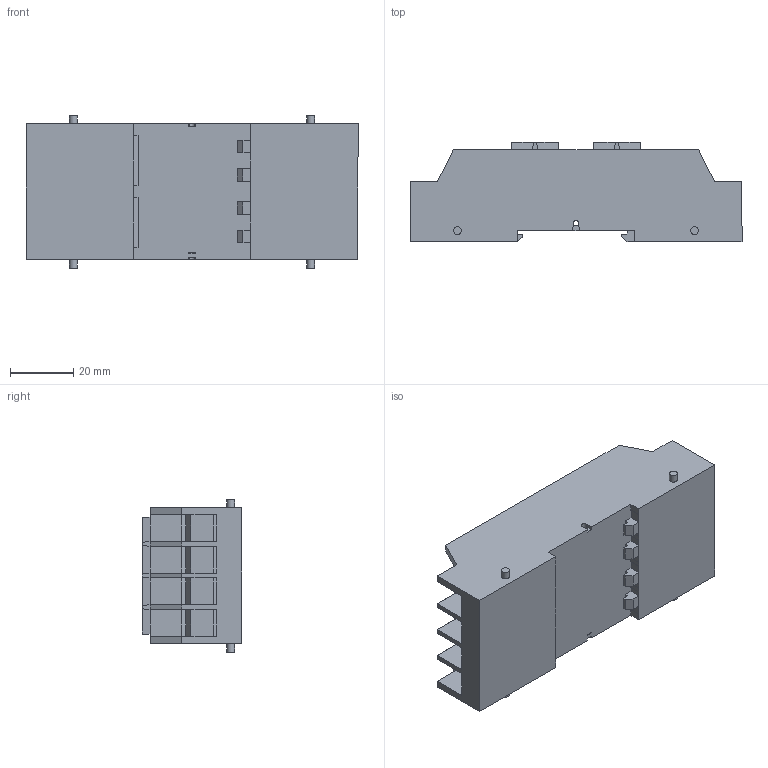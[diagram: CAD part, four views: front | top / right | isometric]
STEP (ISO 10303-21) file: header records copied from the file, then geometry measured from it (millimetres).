
FILE_DESCRIPTION (( 'STEP AP203' ), '1' );
FILE_NAME ('Base FN DE IP10.STEP', '2017-11-23T10:53:41', ( 'arteche' ), ( '' ), 'SwSTEP 2.0', 'SolidWorks 2017', '' );
FILE_SCHEMA (( 'CONFIG_CONTROL_DESIGN' ));
Length unit declared in the file: millimetre
Products named in the file (1): Base FN DE IP10
Bounding box: 105 x 31.5 x 48.3 mm (x, y, z)
Volume: 78402.1 mm3; surface area: 31098.2 mm2
Topology: 1 solids, 1 shells, 393 faces, 1111 edges, 739 vertices
Faces by surface type: plane 386, cylinder 7
Full cylindrical faces by diameter (mm): 2.5 x4
Entity records: 12557 total; most frequent: CARTESIAN_POINT 2240, ORIENTED_EDGE 2214, DIRECTION 1910, EDGE_CURVE 1107, LINE 1092, VECTOR 1092, VERTEX_POINT 739, EDGE_LOOP 436
